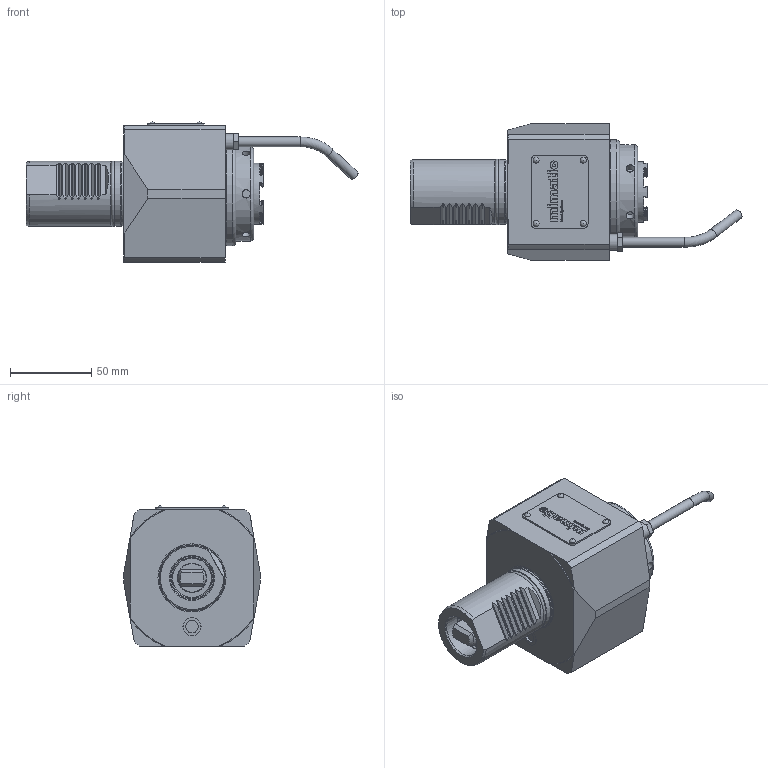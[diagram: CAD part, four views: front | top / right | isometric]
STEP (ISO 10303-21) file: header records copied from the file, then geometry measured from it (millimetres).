
FILE_DESCRIPTION(/* description */ (''),/* implementation_level */ '2;1');
FILE_NAME(/* name */ '124265',/* time_stamp */ '2019-09-05T13:39:22+02:00',/* author */ (''),/* organization */ (''),/* preprocessor_version */ 'ST-DEVELOPER v16.5',/* originating_system */ 'HiCAD 2017 2201.0 Build 268',/* authorisation */ '');
FILE_SCHEMA (('AUTOMOTIVE_DESIGN { 1 0 10303 214 1 1 1 1 }'));
Length unit declared in the file: millimetre
Products named in the file (1): A124265_AGW-MA-A-40-ER32-I
Bounding box: 204.17 x 84 x 86.3 mm (x, y, z)
Volume: 493811.3 mm3; surface area: 60406 mm2
Topology: 1 solids, 5 shells, 571 faces, 1483 edges, 983 vertices
Faces by surface type: plane 334, cylinder 154, bspline 38, torus 24, cone 17, sphere 4
Full cylindrical faces by diameter (mm): 2 x4, 2.2 x4, 4 x2, 5.1 x6, 6 x3, 7.65 x1, 10 x1, 11.01 x1, 11.1 x1, 18 x1, 23.5 x1, 24 x1, 26.5 x1, 27 x3, 29.4 x1, 36.5 x2, 37.5 x1, 38 x1, 39.6 x1, 40 x4, 40.5 x1, 50 x1, 51.366 x1, 58 x1, 59.6 x1, 64 x1
Entity records: 38778 total; most frequent: CARTESIAN_POINT 10112, PRESENTATION_STYLE_ASSIGNMENT 3038, OVER_RIDING_STYLED_ITEM 3037, COLOUR_RGB 2749, DRAUGHTING_PRE_DEFINED_CURVE_FONT 2742, CURVE_STYLE 2742, ORIENTED_EDGE 2742, DIRECTION 2542
